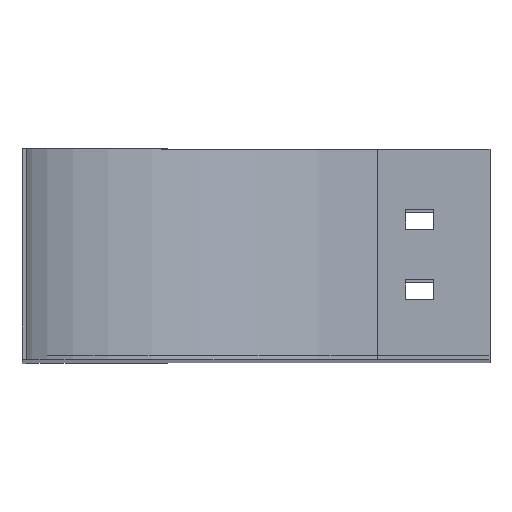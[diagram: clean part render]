
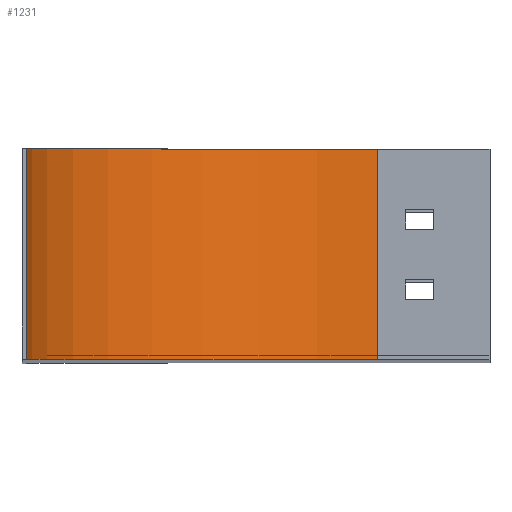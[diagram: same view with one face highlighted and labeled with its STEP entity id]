
A CAD part, top view. The second image highlights one B-rep face of the part: STEP entity #1231.
In plain terms, the highlighted cylindrical face has radius 125 mm (diameter 250 mm), a partial arc.
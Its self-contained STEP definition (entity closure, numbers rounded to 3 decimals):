
#65 = LINE ( 'NONE', #594, #939 ) ;
#119 = DIRECTION ( 'NONE',  ( 0., -1., 0. ) ) ;
#125 = CARTESIAN_POINT ( 'NONE',  ( 0., 75., 0. ) ) ;
#135 = VERTEX_POINT ( 'NONE', #142 ) ;
#136 = VERTEX_POINT ( 'NONE', #430 ) ;
#137 = DIRECTION ( 'NONE',  ( 0., 0., -1. ) ) ;
#142 = CARTESIAN_POINT ( 'NONE',  ( -125., 0., 0. ) ) ;
#156 = EDGE_CURVE ( 'NONE', #1155, #136, #65, .T. ) ;
#187 = CIRCLE ( 'NONE', #1131, 125. ) ;
#219 = DIRECTION ( 'NONE',  ( 0., -1., 0. ) ) ;
#261 = CARTESIAN_POINT ( 'NONE',  ( 0., 0., 0. ) ) ;
#332 = EDGE_CURVE ( 'NONE', #1007, #1155, #187, .T. ) ;
#343 = LINE ( 'NONE', #854, #1327 ) ;
#357 = AXIS2_PLACEMENT_3D ( 'NONE', #261, #1291, #648 ) ;
#365 = CYLINDRICAL_SURFACE ( 'NONE', #475, 125. ) ;
#430 = CARTESIAN_POINT ( 'NONE',  ( 0., 0., -125. ) ) ;
#475 = AXIS2_PLACEMENT_3D ( 'NONE', #125, #119, #871 ) ;
#594 = CARTESIAN_POINT ( 'NONE',  ( 0., 75., -125. ) ) ;
#648 = DIRECTION ( 'NONE',  ( 0., 0., -1. ) ) ;
#791 = ORIENTED_EDGE ( 'NONE', *, *, #332, .F. ) ;
#816 = ORIENTED_EDGE ( 'NONE', *, *, #156, .F. ) ;
#854 = CARTESIAN_POINT ( 'NONE',  ( -125., 75., 0. ) ) ;
#871 = DIRECTION ( 'NONE',  ( 0., 0., -1. ) ) ;
#890 = FACE_OUTER_BOUND ( 'NONE', #937, .T. ) ;
#893 = DIRECTION ( 'NONE',  ( 0., -1., 0. ) ) ;
#927 = EDGE_CURVE ( 'NONE', #135, #136, #1083, .T. ) ;
#937 = EDGE_LOOP ( 'NONE', ( #1541, #816, #791, #1167 ) ) ;
#939 = VECTOR ( 'NONE', #977, 1000. ) ;
#977 = DIRECTION ( 'NONE',  ( 0., -1., 0. ) ) ;
#1007 = VERTEX_POINT ( 'NONE', #1332 ) ;
#1029 = EDGE_CURVE ( 'NONE', #1007, #135, #343, .T. ) ;
#1083 = CIRCLE ( 'NONE', #357, 125. ) ;
#1131 = AXIS2_PLACEMENT_3D ( 'NONE', #1290, #893, #137 ) ;
#1155 = VERTEX_POINT ( 'NONE', #1376 ) ;
#1167 = ORIENTED_EDGE ( 'NONE', *, *, #1029, .T. ) ;
#1231 = ADVANCED_FACE ( 'NONE', ( #890 ), #365, .F. ) ;
#1290 = CARTESIAN_POINT ( 'NONE',  ( 0., 75., 0. ) ) ;
#1291 = DIRECTION ( 'NONE',  ( 0., -1., 0. ) ) ;
#1327 = VECTOR ( 'NONE', #219, 1000. ) ;
#1332 = CARTESIAN_POINT ( 'NONE',  ( -125., 75., 0. ) ) ;
#1376 = CARTESIAN_POINT ( 'NONE',  ( 0., 75., -125. ) ) ;
#1541 = ORIENTED_EDGE ( 'NONE', *, *, #927, .T. ) ;
